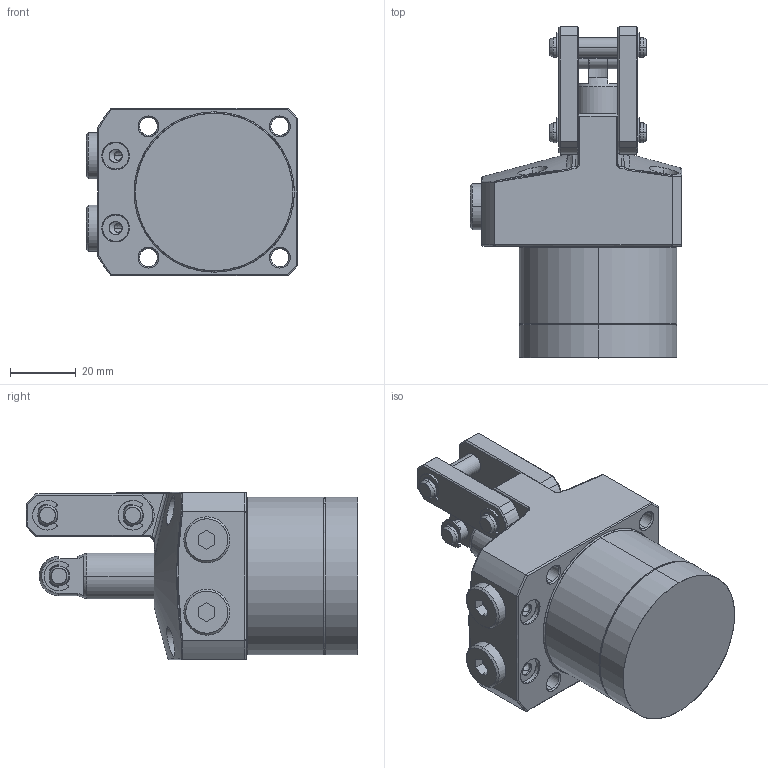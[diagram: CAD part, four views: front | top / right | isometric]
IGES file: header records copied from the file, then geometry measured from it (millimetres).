
Start section: SolidWorks IGES file using analytic representation for surfaces
Global section: file name: D:\abhilash\nijil\cylinder\LKA Series\con v lka\lka48\lk48cr\48CR PT\0402-0482.IGS; native system: SolidWorks 2010; preprocessor: SolidWorks 2010; author: nidheesh; date: 130730.102821; units: millimetre
Bounding box: 64.5 x 101 x 51 mm (x, y, z)
Surface area: 26510 mm2 (no closed solid volume)
Topology: 0 solids, 0 shells, 389 faces, 5088 edges, 5083 vertices
Faces by surface type: bspline 210, revolution 179
